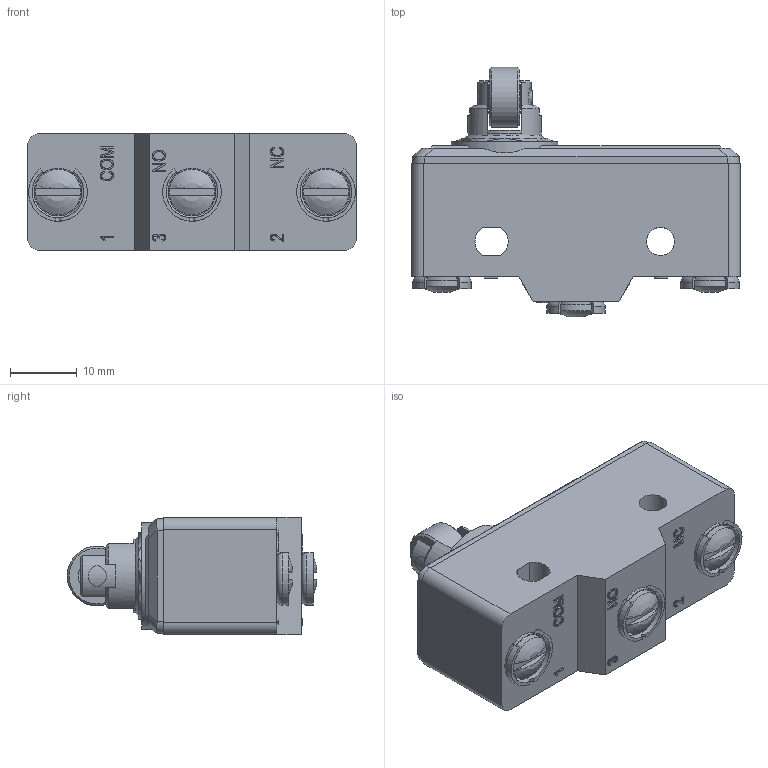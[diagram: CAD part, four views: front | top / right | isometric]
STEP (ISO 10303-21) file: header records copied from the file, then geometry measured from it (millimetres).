
FILE_DESCRIPTION((''),'2; 1');
FILE_NAME('','2026-03-27T16:25:00',(''),(''),'CST STEP Exporter V1.0','Unknown','');
FILE_SCHEMA(('CONFIG_CONTROL_DESIGN'));
Length unit declared in the file: metre
Assembly tree (15 placements, depth 2):
  (unnamed)
    (unnamed)
    (unnamed)
    (unnamed)
    (unnamed)
    (unnamed)
    (unnamed)
    (unnamed)
    (unnamed)
    (unnamed)
    (unnamed)
    (unnamed)
    (unnamed)
    (unnamed)
    (unnamed)
    (unnamed)
Bounding box: 49.4 x 37.51 x 17.6 mm (x, y, z)
Surface area: 13806.8 mm2 (no closed solid volume)
Topology: 0 solids, 17 shells, 499 faces, 1355 edges, 902 vertices
Faces by surface type: plane 356, extrusion 62, cylinder 45, cone 22, revolution 6, torus 6, bspline 2
Full cylindrical faces by diameter (mm): 1.2 x1, 2.1 x1, 2.3 x1, 3.1 x1, 4.2 x1, 5 x1, 5.1 x1, 6.9 x3, 8 x1, 8.3 x1, 9 x1, 11 x1, 16 x1
Entity records: 22525 total; most frequent: CARTESIAN_POINT 6248, ORIENTED_EDGE 2557, DIRECTION 2199, EDGE_CURVE 1326, VECTOR 1030, LINE 968, VERTEX_POINT 890, AXIS2_PLACEMENT_3D 583
